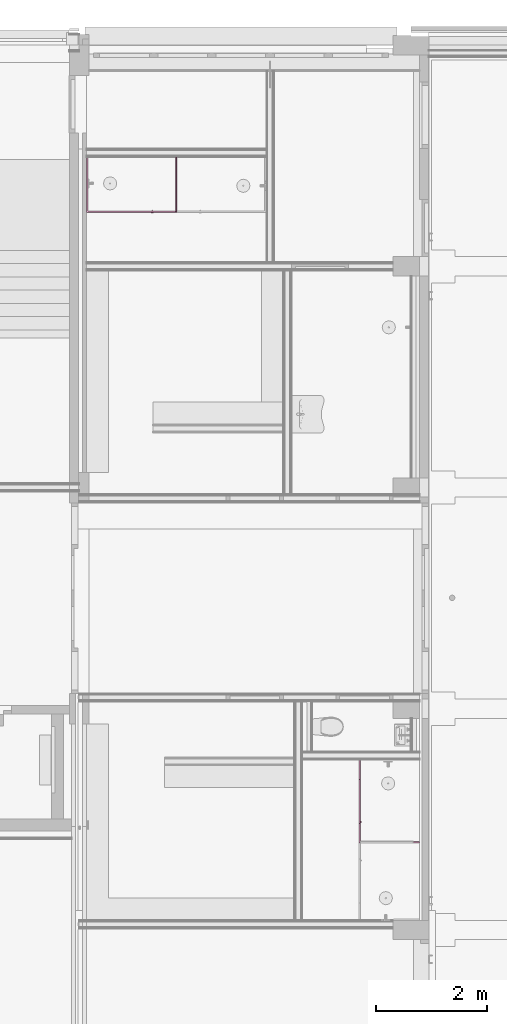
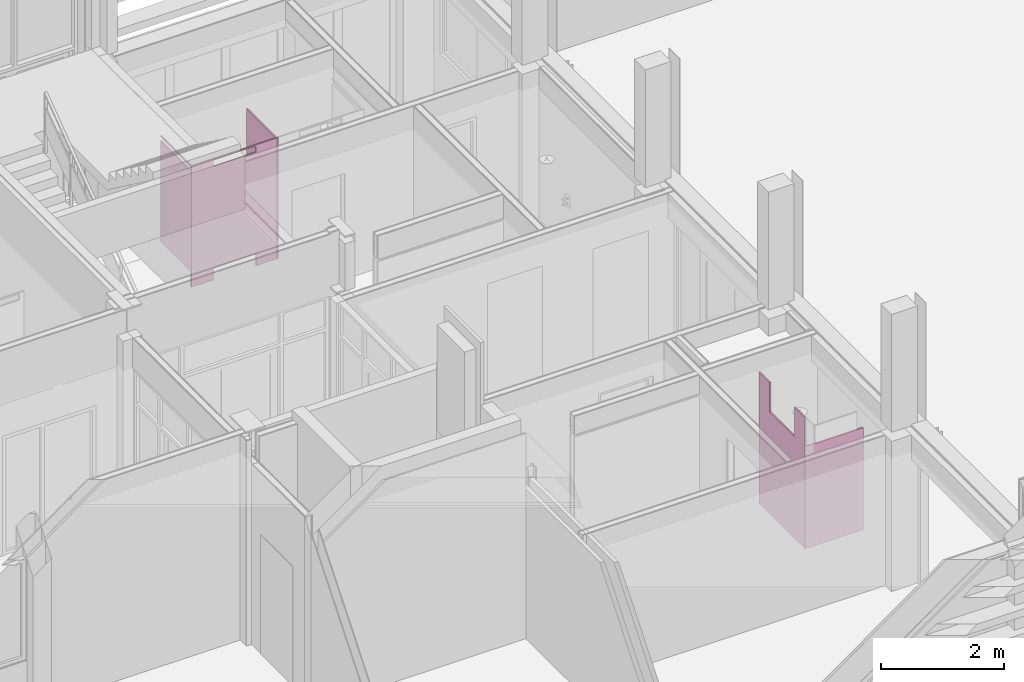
# One storey, part 104 of 109: 3 furnishings.
"""IFC2X3 building model written with IfcOpenShell, lengths in millimetres."""

from ifc_helpers import new_model, entity, si_unit, converted_unit, derived_unit, money_unit, direction, frame, origin_with_axes, place, context, subcontext, project, spatial, open_shell, faceted_brep, surface_model, type_object, element, save


model = new_model("IFC2X3")

# Units and contexts
model_context = context("Model", 3, precision=0.01, world=origin_with_axes(), true_north=direction((0.0, 1.0)))
body_context = subcontext(model_context, "Body", "Model", "MODEL_VIEW")
ifc_project = project(units=[si_unit("LENGTHUNIT", "METRE", prefix="MILLI"), si_unit("AREAUNIT", "SQUARE_METRE"), si_unit("VOLUMEUNIT", "CUBIC_METRE"), converted_unit("PLANEANGLEUNIT", "DEGREE", entity("IfcPlaneAngleMeasure", 0.0174532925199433), si_unit("PLANEANGLEUNIT", "RADIAN"), dimensions=[0, 0, 0, 0, 0, 0, 0]), money_unit("EUR"), converted_unit("TIMEUNIT", "Year", entity("IfcTimeMeasure", 31557600.0), si_unit("TIMEUNIT", "SECOND"), dimensions=[0, 0, 1, 0, 0, 0, 0]), si_unit("MASSUNIT", "GRAM", prefix="KILO"), si_unit("THERMODYNAMICTEMPERATUREUNIT", "DEGREE_CELSIUS"), si_unit("LUMINOUSINTENSITYUNIT", "LUMEN"), si_unit("ENERGYUNIT", "JOULE", prefix="MEGA"), derived_unit("THERMALCONDUCTANCEUNIT", [(si_unit("POWERUNIT", "WATT"), 1), (si_unit("LENGTHUNIT", "METRE"), -1), (si_unit("THERMODYNAMICTEMPERATUREUNIT", "KELVIN"), -1)]), derived_unit("SPECIFICHEATCAPACITYUNIT", [(si_unit("ENERGYUNIT", "JOULE"), 1), (si_unit("MASSUNIT", "GRAM", prefix="KILO"), -1), (si_unit("THERMODYNAMICTEMPERATUREUNIT", "KELVIN"), -1)]), derived_unit("MASSDENSITYUNIT", [(si_unit("MASSUNIT", "GRAM", prefix="KILO"), 1), (si_unit("VOLUMEUNIT", "CUBIC_METRE"), -1)])], contexts=[model_context])

# Site, building, storey
site_placement = place(None, origin_with_axes())
site = spatial("IfcSite", under=ifc_project, at=site_placement, Name="<site naam>", CompositionType="ELEMENT")
building_placement = place(site_placement, origin_with_axes())
building = spatial("IfcBuilding", under=site, at=building_placement, Name="<Naam gebouw>", CompositionType="ELEMENT")
storey_placement = place(building_placement, origin_with_axes())
storey = spatial("IfcBuildingStorey", under=building, at=storey_placement, Name="00 Begane grond", CompositionType="ELEMENT", Elevation=0.0)

# Furnishings
furnishing_element_type_1 = type_object("IfcFurnishingElementType", Name="Sanitaire wanden 27")
furnishing_1_placement = place(storey_placement, frame((52135.00000000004, 16975.01572012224, 0.0), z_axis=(0.0, 0.0, 1.0), x_axis=(1.0, 0.0, 0.0)))
element("IfcFurnishingElement", 1, at=furnishing_1_placement, inside=storey, type_object=furnishing_element_type_1, Name="72_Sanitaire wanden Kupan_Lege", context=body_context, shape_type="SurfaceModel", body=[
    faceted_brep([(0.0, 0.0, 0.0), (416.6497116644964, 0.0, 0.0), (416.6497116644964, 0.0, 2375.0), (0.0, 0.0, 2375.0), (0.0, 25.0, 0.0), (416.6497116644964, 25.0, 0.0), (416.6497116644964, 25.0, 2375.0), (0.0, 25.0, 2375.0)], [[[0, 1, 2, 3]], [[0, 4, 5, 1]], [[1, 5, 6, 2]], [[3, 2, 6, 7]], [[4, 0, 3, 7]], [[5, 4, 7, 6]]]),
    faceted_brep([(1216.649711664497, 0.0, 0.0), (1633.299423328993, 0.0, 0.0), (1633.299423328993, 0.0, 2375.0), (1216.649711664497, 0.0, 2375.0), (1216.649711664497, 25.0, 0.0), (1633.299423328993, 25.0, 0.0), (1633.299423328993, 25.0, 2375.0), (1216.649711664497, 25.0, 2375.0)], [[[0, 1, 2, 3]], [[0, 4, 5, 1]], [[1, 5, 6, 2]], [[3, 2, 6, 7]], [[4, 0, 3, 7]], [[5, 4, 7, 6]]]),
    surface_model("IfcShellBasedSurfaceModel", [(0.0, 0.0, 0.0), (0.0, 25.0, 0.0), (416.6497116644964, 25.0, 0.0), (416.6497116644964, 0.0, 0.0)], [open_shell([[[0, 1, 2, 3]]])]),
    surface_model("IfcShellBasedSurfaceModel", [(1216.649711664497, 0.0, 0.0), (1216.649711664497, 25.0, 0.0), (1633.299423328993, 25.0, 0.0), (1633.299423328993, 0.0, 0.0)], [open_shell([[[0, 1, 2, 3]]])]),
    faceted_brep([(1633.299423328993, 0.0, 2375.0), (1633.299423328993, 25.0, 2375.0), (1633.299423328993, 25.0, 2400.0), (1633.299423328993, 0.0, 2400.0), (0.0, 0.0, 2375.0), (0.0, 25.0, 2375.0), (0.0, 25.0, 2400.0), (0.0, 0.0, 2400.0)], [[[0, 1, 2, 3]], [[0, 4, 5, 1]], [[1, 5, 6, 2]], [[3, 2, 6, 7]], [[4, 0, 3, 7]], [[5, 4, 7, 6]]]),
    faceted_brep([(416.6497116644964, 0.0, 250.0), (1216.649711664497, 0.0, 250.0), (1216.649711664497, 0.0, 2250.0), (416.6497116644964, 0.0, 2250.0), (416.6497116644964, 25.0, 250.0), (1216.649711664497, 25.0, 250.0), (1216.649711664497, 25.0, 2250.0), (416.6497116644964, 25.0, 2250.0)], [[[0, 1, 2, 3]], [[0, 4, 5, 1]], [[1, 5, 6, 2]], [[3, 2, 6, 7]], [[4, 0, 3, 7]], [[5, 4, 7, 6]]]),
    faceted_brep([(1184.649711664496, 30.0, 1048.5), (1184.649711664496, 30.0, 1051.5), (1184.649711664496, 31.0, 1051.5), (1184.649711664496, 31.0, 1048.5), (1188.649711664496, 30.0, 1048.5), (1188.649711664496, 30.0, 1051.5), (1188.649711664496, 31.0, 1051.5), (1203.649711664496, 31.0, 1051.5), (1201.316060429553, 34.44581109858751, 1051.5), (1198.295883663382, 37.30903908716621, 1051.5), (1194.730554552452, 39.4556574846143, 1051.5), (1190.786964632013, 40.78518399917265, 1051.5), (1186.649711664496, 41.23538406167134, 1051.5), (1182.512458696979, 40.78518399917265, 1051.5), (1178.56886877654, 39.4556574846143, 1051.5), (1175.003539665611, 37.3090390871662, 1051.5), (1171.98336289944, 34.4458110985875, 1051.5), (1169.649711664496, 31.0, 1051.5), (1169.649711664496, 31.0, 1048.5), (1171.98336289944, 34.4458110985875, 1048.5), (1175.003539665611, 37.3090390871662, 1048.5), (1178.56886877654, 39.4556574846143, 1048.5), (1182.512458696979, 40.78518399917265, 1048.5), (1186.649711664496, 41.23538406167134, 1048.5), (1190.786964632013, 40.78518399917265, 1048.5), (1194.730554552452, 39.4556574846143, 1048.5), (1198.295883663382, 37.30903908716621, 1048.5), (1201.316060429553, 34.44581109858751, 1048.5), (1203.649711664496, 31.0, 1048.5), (1188.649711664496, 31.0, 1048.5)], [[[0, 1, 2, 3]], [[4, 5, 1, 0]], [[1, 5, 6, 7, 8, 9, 10, 11, 12, 13, 14, 15, 16, 17, 2]], [[3, 2, 17, 18]], [[0, 3, 18, 19, 20, 21, 22, 23, 24, 25, 26, 27, 28, 29, 4]], [[29, 6, 5, 4]], [[28, 7, 6, 29]], [[27, 8, 7, 28]], [[26, 9, 8, 27]], [[25, 10, 9, 26]], [[24, 11, 10, 25]], [[23, 12, 11, 24]], [[22, 13, 12, 23]], [[21, 14, 13, 22]], [[20, 15, 14, 21]], [[19, 16, 15, 20]], [[18, 17, 16, 19]]]),
    surface_model("IfcShellBasedSurfaceModel", [(1180.83536922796, 30.0, 1065.97477455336), (1178.783248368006, 28.0, 1071.612930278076), (1186.649711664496, 28.0, 1073.0), (1186.649711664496, 30.0, 1067.0), (1175.722322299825, 30.0, 1063.022755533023), (1171.865596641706, 28.0, 1067.619022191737), (1178.783248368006, 25.0, 1071.612930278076), (1186.649711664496, 25.0, 1073.0), (1194.516174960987, 28.0, 1071.612930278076), (1192.464054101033, 30.0, 1065.97477455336), (1197.577101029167, 30.0, 1063.022755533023), (1201.372143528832, 30.0, 1058.5), (1203.391443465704, 30.0, 1052.952019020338), (1203.391443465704, 30.0, 1047.047980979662), (1201.372143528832, 30.0, 1041.5), (1197.577101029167, 30.0, 1036.977244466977), (1192.464054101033, 30.0, 1034.02522544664), (1186.649711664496, 30.0, 1033.0), (1180.83536922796, 30.0, 1034.02522544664), (1175.722322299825, 30.0, 1036.977244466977), (1171.927279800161, 30.0, 1041.5), (1169.907979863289, 30.0, 1047.047980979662), (1169.907979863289, 30.0, 1052.952019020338), (1171.927279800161, 30.0, 1058.5), (1166.731127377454, 28.0, 1061.5), (1171.865596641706, 25.0, 1067.619022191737), (1194.516174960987, 25.0, 1071.612930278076), (1201.433826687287, 28.0, 1067.619022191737), (1206.568295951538, 28.0, 1061.5), (1209.300289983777, 28.0, 1053.993908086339), (1209.300289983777, 28.0, 1046.006091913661), (1206.568295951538, 28.0, 1038.5), (1201.433826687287, 28.0, 1032.380977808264), (1194.516174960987, 28.0, 1028.387069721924), (1186.649711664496, 28.0, 1027.0), (1178.783248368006, 28.0, 1028.387069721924), (1171.865596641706, 28.0, 1032.380977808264), (1166.731127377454, 28.0, 1038.5), (1163.999133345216, 28.0, 1046.006091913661), (1163.999133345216, 28.0, 1053.993908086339), (1166.731127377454, 25.0, 1061.5), (1201.433826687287, 25.0, 1067.619022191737), (1206.568295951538, 25.0, 1061.5), (1209.300289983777, 25.0, 1053.993908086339), (1209.300289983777, 25.0, 1046.006091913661), (1206.568295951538, 25.0, 1038.5), (1201.433826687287, 25.0, 1032.380977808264), (1194.516174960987, 25.0, 1028.387069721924), (1186.649711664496, 25.0, 1027.0), (1178.783248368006, 25.0, 1028.387069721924), (1171.865596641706, 25.0, 1032.380977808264), (1166.731127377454, 25.0, 1038.5), (1163.999133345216, 25.0, 1046.006091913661), (1163.999133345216, 25.0, 1053.993908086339)], [open_shell([[[0, 1, 2, 3]], [[4, 5, 1, 0]], [[1, 6, 7, 2]], [[3, 2, 8, 9]], [[3, 9, 10, 11, 12, 13, 14, 15, 16, 17, 18, 19, 20, 21, 22, 23, 4, 0]], [[23, 24, 5, 4]], [[5, 25, 6, 1]], [[2, 7, 26, 8]], [[9, 8, 27, 10]], [[10, 27, 28, 11]], [[11, 28, 29, 12]], [[12, 29, 30, 13]], [[13, 30, 31, 14]], [[14, 31, 32, 15]], [[15, 32, 33, 16]], [[16, 33, 34, 17]], [[17, 34, 35, 18]], [[18, 35, 36, 19]], [[19, 36, 37, 20]], [[20, 37, 38, 21]], [[21, 38, 39, 22]], [[22, 39, 24, 23]], [[24, 40, 25, 5]], [[8, 26, 41, 27]], [[27, 41, 42, 28]], [[28, 42, 43, 29]], [[29, 43, 44, 30]], [[30, 44, 45, 31]], [[31, 45, 46, 32]], [[32, 46, 47, 33]], [[33, 47, 48, 34]], [[34, 48, 49, 35]], [[35, 49, 50, 36]], [[36, 50, 51, 37]], [[37, 51, 52, 38]], [[38, 52, 53, 39]], [[39, 53, 40, 24]]])]),
    faceted_brep([(1163.649711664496, -1.200000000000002, 1050.0), (1163.649711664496, -4.200000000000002, 1050.0), (1165.03678138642, -4.200000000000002, 1057.866463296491), (1165.03678138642, -1.200000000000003, 1057.866463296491), (1165.03678138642, -1.200000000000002, 1042.13353670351), (1165.03678138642, -4.200000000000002, 1042.13353670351), (1169.03068947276, -4.2, 1035.215884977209), (1175.149711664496, -4.2, 1030.081415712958), (1182.655803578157, -4.199999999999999, 1027.349421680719), (1190.643619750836, -4.199999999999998, 1027.349421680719), (1198.149711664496, -4.199999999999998, 1030.081415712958), (1204.268733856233, -4.199999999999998, 1035.21588497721), (1208.262641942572, -4.199999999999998, 1042.13353670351), (1209.649711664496, -4.199999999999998, 1050.0), (1208.262641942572, -4.199999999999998, 1057.866463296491), (1204.268733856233, -4.199999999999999, 1064.78411502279), (1198.149711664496, -4.2, 1069.918584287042), (1190.643619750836, -4.2, 1072.650578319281), (1182.655803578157, -4.200000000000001, 1072.650578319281), (1175.149711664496, -4.200000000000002, 1069.918584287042), (1169.03068947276, -4.200000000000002, 1064.78411502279), (1169.03068947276, -1.200000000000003, 1064.78411502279), (1175.149711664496, -1.200000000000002, 1069.918584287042), (1182.655803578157, -1.200000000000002, 1072.650578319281), (1190.643619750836, -1.200000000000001, 1072.650578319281), (1198.149711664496, -1.2, 1069.918584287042), (1204.268733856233, -1.199999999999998, 1064.78411502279), (1208.262641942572, -1.199999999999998, 1057.866463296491), (1209.649711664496, -1.199999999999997, 1050.0), (1208.262641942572, -1.199999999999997, 1042.13353670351), (1204.268733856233, -1.199999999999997, 1035.21588497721), (1198.149711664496, -1.199999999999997, 1030.081415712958), (1190.643619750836, -1.199999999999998, 1027.349421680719), (1182.655803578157, -1.199999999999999, 1027.349421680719), (1175.149711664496, -1.2, 1030.081415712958), (1169.03068947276, -1.200000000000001, 1035.215884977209)], [[[0, 1, 2, 3]], [[4, 5, 1, 0]], [[1, 5, 6, 7, 8, 9, 10, 11, 12, 13, 14, 15, 16, 17, 18, 19, 20, 2]], [[3, 2, 20, 21]], [[0, 3, 21, 22, 23, 24, 25, 26, 27, 28, 29, 30, 31, 32, 33, 34, 35, 4]], [[35, 6, 5, 4]], [[34, 7, 6, 35]], [[33, 8, 7, 34]], [[32, 9, 8, 33]], [[31, 10, 9, 32]], [[30, 11, 10, 31]], [[29, 12, 11, 30]], [[28, 13, 12, 29]], [[27, 14, 13, 28]], [[26, 15, 14, 27]], [[25, 16, 15, 26]], [[24, 17, 16, 25]], [[23, 18, 17, 24]], [[22, 19, 18, 23]], [[21, 20, 19, 22]]]),
    faceted_brep([(1195.149711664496, -6.199999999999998, 1035.277568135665), (1199.672467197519, -6.199999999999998, 1039.072610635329), (1202.624486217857, -6.199999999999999, 1044.185657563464), (1203.649711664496, -6.199999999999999, 1050.0), (1202.624486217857, -6.199999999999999, 1055.814342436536), (1199.672467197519, -6.2, 1060.927389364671), (1195.149711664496, -6.2, 1064.722431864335), (1189.601730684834, -6.200000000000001, 1066.741731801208), (1183.697692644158, -6.200000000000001, 1066.741731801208), (1178.149711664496, -6.200000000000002, 1064.722431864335), (1173.626956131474, -6.200000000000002, 1060.927389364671), (1170.674937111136, -6.200000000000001, 1055.814342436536), (1169.649711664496, -6.200000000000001, 1050.0), (1170.674937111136, -6.200000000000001, 1044.185657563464), (1173.626956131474, -6.2, 1039.072610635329), (1178.149711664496, -6.2, 1035.277568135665), (1183.697692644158, -6.199999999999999, 1033.258268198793), (1189.601730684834, -6.199999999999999, 1033.258268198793), (1182.649711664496, -6.200000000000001, 1057.5), (1182.649711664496, -6.200000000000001, 1062.5), (1190.649711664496, -6.200000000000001, 1062.5), (1190.649711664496, -6.2, 1057.5), (1198.149711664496, -4.199999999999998, 1030.081415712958), (1204.268733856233, -4.199999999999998, 1035.21588497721), (1208.262641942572, -4.199999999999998, 1042.13353670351), (1209.649711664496, -4.199999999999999, 1050.0), (1208.262641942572, -4.199999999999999, 1057.866463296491), (1204.268733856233, -4.2, 1064.784115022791), (1198.149711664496, -4.2, 1069.918584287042), (1190.643619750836, -4.2, 1072.650578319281), (1182.655803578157, -4.200000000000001, 1072.650578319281), (1175.149711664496, -4.200000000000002, 1069.918584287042), (1169.03068947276, -4.200000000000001, 1064.78411502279), (1165.03678138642, -4.200000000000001, 1057.866463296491), (1163.649711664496, -4.2, 1050.0), (1165.03678138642, -4.2, 1042.13353670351), (1169.03068947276, -4.2, 1035.21588497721), (1175.149711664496, -4.199999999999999, 1030.081415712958), (1182.655803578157, -4.199999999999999, 1027.349421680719), (1190.643619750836, -4.199999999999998, 1027.349421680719), (1182.649711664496, -4.2, 1057.5), (1182.649711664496, -4.200000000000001, 1062.5), (1190.649711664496, -4.2, 1062.5), (1190.649711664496, -4.2, 1057.5)], [[[0, 1, 2, 3, 4, 5, 6, 7, 8, 9, 10, 11, 12, 13, 14, 15, 16, 17], [18, 19, 20, 21]], [[22, 23, 1, 0]], [[23, 24, 2, 1]], [[24, 25, 3, 2]], [[25, 26, 4, 3]], [[26, 27, 5, 4]], [[27, 28, 6, 5]], [[28, 29, 7, 6]], [[29, 30, 8, 7]], [[30, 31, 9, 8]], [[31, 32, 10, 9]], [[32, 33, 11, 10]], [[33, 34, 12, 11]], [[34, 35, 13, 12]], [[35, 36, 14, 13]], [[36, 37, 15, 14]], [[37, 38, 16, 15]], [[38, 39, 17, 16]], [[39, 22, 0, 17]], [[40, 41, 19, 18]], [[41, 42, 20, 19]], [[42, 43, 21, 20]], [[43, 40, 18, 21]], [[28, 27, 26, 25, 24, 23, 22, 39, 38, 37, 36, 35, 34, 33, 32, 31, 30, 29], [40, 43, 42, 41]]]),
    surface_model("IfcShellBasedSurfaceModel", [(1182.649711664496, -4.210000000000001, 1062.5), (1190.649711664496, -4.21, 1062.5), (1190.649711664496, -4.21, 1057.5), (1182.649711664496, -4.210000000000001, 1057.5)], [open_shell([[[0, 1, 2, 3]]])]),
    faceted_brep([(25.0, 25.0, 300.0), (25.00000000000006, 999.984279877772, 300.0), (25.00000000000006, 999.984279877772, 2300.0), (25.0, 25.0, 2300.0), (0.0, 25.0, 300.0), (0.0, 999.984279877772, 300.0), (0.0, 999.984279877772, 2300.0), (0.0, 25.0, 2300.0)], [[[0, 1, 2, 3]], [[0, 4, 5, 1]], [[1, 5, 6, 2]], [[3, 2, 6, 7]], [[4, 0, 3, 7]], [[5, 4, 7, 6]]]),
    faceted_brep([(25.0, 25.0, 2375.0), (25.00000000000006, 999.984279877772, 2375.0), (25.00000000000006, 999.984279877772, 2400.0), (25.0, 25.0, 2400.0), (0.0, 25.0, 2375.0), (0.0, 999.984279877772, 2375.0), (0.0, 999.984279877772, 2400.0), (0.0, 25.0, 2400.0)], [[[0, 1, 2, 3]], [[0, 4, 5, 1]], [[1, 5, 6, 2]], [[3, 2, 6, 7]], [[4, 0, 3, 7]], [[5, 4, 7, 6]]]),
])
furnishing_2_placement = place(storey_placement, frame((57062.79866662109, 7075.000000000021, 0.0), z_axis=(0.0, 0.0, 1.0), x_axis=(0.0, -1.0, 0.0)))
element("IfcFurnishingElement", 2, at=furnishing_2_placement, inside=storey, type_object=furnishing_element_type_1, Name="72_Sanitaire wanden Kupan_Lege", context=body_context, shape_type="SurfaceModel", body=[
    faceted_brep([(0.0, 0.0, 0.0), (349.9999999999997, 0.0, 0.0), (349.9999999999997, 0.0, 2600.0), (0.0, 0.0, 2600.0), (0.0, 25.0, 0.0), (349.9999999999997, 25.0, 0.0), (349.9999999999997, 25.0, 2600.0), (0.0, 25.0, 2600.0)], [[[0, 1, 2, 3]], [[0, 4, 5, 1]], [[1, 5, 6, 2]], [[3, 2, 6, 7]], [[4, 0, 3, 7]], [[5, 4, 7, 6]]]),
    faceted_brep([(1150.0, 0.0, 0.0), (1499.999999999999, 0.0, 0.0), (1499.999999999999, 0.0, 2600.0), (1150.0, 0.0, 2600.0), (1150.0, 25.0, 0.0), (1499.999999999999, 25.0, 0.0), (1499.999999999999, 25.0, 2600.0), (1150.0, 25.0, 2600.0)], [[[0, 1, 2, 3]], [[0, 4, 5, 1]], [[1, 5, 6, 2]], [[3, 2, 6, 7]], [[4, 0, 3, 7]], [[5, 4, 7, 6]]]),
    surface_model("IfcShellBasedSurfaceModel", [(0.0, 0.0, 0.0), (0.0, 25.0, 0.0), (349.9999999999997, 25.0, 0.0), (349.9999999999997, 0.0, 0.0)], [open_shell([[[0, 1, 2, 3]]])]),
    surface_model("IfcShellBasedSurfaceModel", [(1150.0, 0.0, 0.0), (1150.0, 25.0, 0.0), (1499.999999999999, 25.0, 0.0), (1499.999999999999, 0.0, 0.0)], [open_shell([[[0, 1, 2, 3]]])]),
    faceted_brep([(349.9999999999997, 0.0, 0.0), (1150.0, 0.0, 0.0), (1150.0, 0.0, 2025.0), (349.9999999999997, 0.0, 2025.0), (349.9999999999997, 25.0, 0.0), (1150.0, 25.0, 0.0), (1150.0, 25.0, 2025.0), (349.9999999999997, 25.0, 2025.0)], [[[0, 1, 2, 3]], [[0, 4, 5, 1]], [[1, 5, 6, 2]], [[3, 2, 6, 7]], [[4, 0, 3, 7]], [[5, 4, 7, 6]]]),
    faceted_brep([(1118.0, 30.0, 1048.5), (1118.0, 30.0, 1051.5), (1118.0, 31.0, 1051.5), (1118.0, 31.0, 1048.5), (1122.0, 30.0, 1048.5), (1122.0, 30.0, 1051.5), (1122.0, 31.0, 1051.5), (1137.0, 31.0, 1051.5), (1134.666348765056, 34.44581109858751, 1051.5), (1131.646171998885, 37.30903908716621, 1051.5), (1128.080842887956, 39.4556574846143, 1051.5), (1124.137252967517, 40.78518399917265, 1051.5), (1120.0, 41.23538406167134, 1051.5), (1115.862747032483, 40.78518399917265, 1051.5), (1111.919157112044, 39.4556574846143, 1051.5), (1108.353828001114, 37.3090390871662, 1051.5), (1105.333651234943, 34.4458110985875, 1051.5), (1103.0, 31.0, 1051.5), (1103.0, 31.0, 1048.5), (1105.333651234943, 34.4458110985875, 1048.5), (1108.353828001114, 37.3090390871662, 1048.5), (1111.919157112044, 39.4556574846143, 1048.5), (1115.862747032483, 40.78518399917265, 1048.5), (1120.0, 41.23538406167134, 1048.5), (1124.137252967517, 40.78518399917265, 1048.5), (1128.080842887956, 39.4556574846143, 1048.5), (1131.646171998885, 37.30903908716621, 1048.5), (1134.666348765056, 34.44581109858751, 1048.5), (1137.0, 31.0, 1048.5), (1122.0, 31.0, 1048.5)], [[[0, 1, 2, 3]], [[4, 5, 1, 0]], [[1, 5, 6, 7, 8, 9, 10, 11, 12, 13, 14, 15, 16, 17, 2]], [[3, 2, 17, 18]], [[0, 3, 18, 19, 20, 21, 22, 23, 24, 25, 26, 27, 28, 29, 4]], [[29, 6, 5, 4]], [[28, 7, 6, 29]], [[27, 8, 7, 28]], [[26, 9, 8, 27]], [[25, 10, 9, 26]], [[24, 11, 10, 25]], [[23, 12, 11, 24]], [[22, 13, 12, 23]], [[21, 14, 13, 22]], [[20, 15, 14, 21]], [[19, 16, 15, 20]], [[18, 17, 16, 19]]]),
    surface_model("IfcShellBasedSurfaceModel", [(1114.185657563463, 30.0, 1065.97477455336), (1112.133536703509, 28.0, 1071.612930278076), (1120.0, 28.0, 1073.0), (1120.0, 30.0, 1067.0), (1109.072610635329, 30.0, 1063.022755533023), (1105.215884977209, 28.0, 1067.619022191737), (1112.133536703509, 25.0, 1071.612930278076), (1120.0, 25.0, 1073.0), (1127.86646329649, 28.0, 1071.612930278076), (1125.814342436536, 30.0, 1065.97477455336), (1130.927389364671, 30.0, 1063.022755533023), (1134.722431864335, 30.0, 1058.5), (1136.741731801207, 30.0, 1052.952019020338), (1136.741731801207, 30.0, 1047.047980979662), (1134.722431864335, 30.0, 1041.5), (1130.927389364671, 30.0, 1036.977244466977), (1125.814342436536, 30.0, 1034.02522544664), (1120.0, 30.0, 1033.0), (1114.185657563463, 30.0, 1034.02522544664), (1109.072610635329, 30.0, 1036.977244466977), (1105.277568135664, 30.0, 1041.5), (1103.258268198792, 30.0, 1047.047980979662), (1103.258268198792, 30.0, 1052.952019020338), (1105.277568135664, 30.0, 1058.5), (1100.081415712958, 28.0, 1061.5), (1105.215884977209, 25.0, 1067.619022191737), (1127.86646329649, 25.0, 1071.612930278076), (1134.78411502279, 28.0, 1067.619022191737), (1139.918584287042, 28.0, 1061.5), (1142.65057831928, 28.0, 1053.993908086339), (1142.65057831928, 28.0, 1046.006091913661), (1139.918584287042, 28.0, 1038.5), (1134.78411502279, 28.0, 1032.380977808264), (1127.86646329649, 28.0, 1028.387069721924), (1120.0, 28.0, 1027.0), (1112.133536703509, 28.0, 1028.387069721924), (1105.215884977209, 28.0, 1032.380977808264), (1100.081415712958, 28.0, 1038.5), (1097.349421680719, 28.0, 1046.006091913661), (1097.349421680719, 28.0, 1053.993908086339), (1100.081415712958, 25.0, 1061.5), (1134.78411502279, 25.0, 1067.619022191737), (1139.918584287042, 25.0, 1061.5), (1142.65057831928, 25.0, 1053.993908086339), (1142.65057831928, 25.0, 1046.006091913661), (1139.918584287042, 25.0, 1038.5), (1134.78411502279, 25.0, 1032.380977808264), (1127.86646329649, 25.0, 1028.387069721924), (1120.0, 25.0, 1027.0), (1112.133536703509, 25.0, 1028.387069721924), (1105.215884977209, 25.0, 1032.380977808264), (1100.081415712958, 25.0, 1038.5), (1097.349421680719, 25.0, 1046.006091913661), (1097.349421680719, 25.0, 1053.993908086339)], [open_shell([[[0, 1, 2, 3]], [[4, 5, 1, 0]], [[1, 6, 7, 2]], [[3, 2, 8, 9]], [[3, 9, 10, 11, 12, 13, 14, 15, 16, 17, 18, 19, 20, 21, 22, 23, 4, 0]], [[23, 24, 5, 4]], [[5, 25, 6, 1]], [[2, 7, 26, 8]], [[9, 8, 27, 10]], [[10, 27, 28, 11]], [[11, 28, 29, 12]], [[12, 29, 30, 13]], [[13, 30, 31, 14]], [[14, 31, 32, 15]], [[15, 32, 33, 16]], [[16, 33, 34, 17]], [[17, 34, 35, 18]], [[18, 35, 36, 19]], [[19, 36, 37, 20]], [[20, 37, 38, 21]], [[21, 38, 39, 22]], [[22, 39, 24, 23]], [[24, 40, 25, 5]], [[8, 26, 41, 27]], [[27, 41, 42, 28]], [[28, 42, 43, 29]], [[29, 43, 44, 30]], [[30, 44, 45, 31]], [[31, 45, 46, 32]], [[32, 46, 47, 33]], [[33, 47, 48, 34]], [[34, 48, 49, 35]], [[35, 49, 50, 36]], [[36, 50, 51, 37]], [[37, 51, 52, 38]], [[38, 52, 53, 39]], [[39, 53, 40, 24]]])]),
    faceted_brep([(1097.0, -1.200000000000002, 1050.0), (1097.0, -4.200000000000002, 1050.0), (1098.387069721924, -4.200000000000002, 1057.866463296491), (1098.387069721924, -1.200000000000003, 1057.866463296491), (1098.387069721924, -1.200000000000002, 1042.13353670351), (1098.387069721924, -4.200000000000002, 1042.13353670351), (1102.380977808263, -4.2, 1035.215884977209), (1108.5, -4.2, 1030.081415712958), (1116.00609191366, -4.199999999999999, 1027.349421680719), (1123.993908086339, -4.199999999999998, 1027.349421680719), (1131.5, -4.199999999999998, 1030.081415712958), (1137.619022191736, -4.199999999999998, 1035.21588497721), (1141.612930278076, -4.199999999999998, 1042.13353670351), (1143.0, -4.199999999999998, 1050.0), (1141.612930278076, -4.199999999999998, 1057.866463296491), (1137.619022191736, -4.199999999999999, 1064.78411502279), (1131.5, -4.2, 1069.918584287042), (1123.993908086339, -4.2, 1072.650578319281), (1116.00609191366, -4.200000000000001, 1072.650578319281), (1108.5, -4.200000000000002, 1069.918584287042), (1102.380977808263, -4.200000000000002, 1064.78411502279), (1102.380977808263, -1.200000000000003, 1064.78411502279), (1108.5, -1.200000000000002, 1069.918584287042), (1116.00609191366, -1.200000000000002, 1072.650578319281), (1123.993908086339, -1.200000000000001, 1072.650578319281), (1131.5, -1.2, 1069.918584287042), (1137.619022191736, -1.199999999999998, 1064.78411502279), (1141.612930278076, -1.199999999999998, 1057.866463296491), (1143.0, -1.199999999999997, 1050.0), (1141.612930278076, -1.199999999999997, 1042.13353670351), (1137.619022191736, -1.199999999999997, 1035.21588497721), (1131.5, -1.199999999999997, 1030.081415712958), (1123.993908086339, -1.199999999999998, 1027.349421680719), (1116.00609191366, -1.199999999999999, 1027.349421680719), (1108.5, -1.2, 1030.081415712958), (1102.380977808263, -1.200000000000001, 1035.215884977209)], [[[0, 1, 2, 3]], [[4, 5, 1, 0]], [[1, 5, 6, 7, 8, 9, 10, 11, 12, 13, 14, 15, 16, 17, 18, 19, 20, 2]], [[3, 2, 20, 21]], [[0, 3, 21, 22, 23, 24, 25, 26, 27, 28, 29, 30, 31, 32, 33, 34, 35, 4]], [[35, 6, 5, 4]], [[34, 7, 6, 35]], [[33, 8, 7, 34]], [[32, 9, 8, 33]], [[31, 10, 9, 32]], [[30, 11, 10, 31]], [[29, 12, 11, 30]], [[28, 13, 12, 29]], [[27, 14, 13, 28]], [[26, 15, 14, 27]], [[25, 16, 15, 26]], [[24, 17, 16, 25]], [[23, 18, 17, 24]], [[22, 19, 18, 23]], [[21, 20, 19, 22]]]),
    faceted_brep([(1128.5, -6.199999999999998, 1035.277568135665), (1133.022755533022, -6.199999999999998, 1039.072610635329), (1135.97477455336, -6.199999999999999, 1044.185657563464), (1137.0, -6.199999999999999, 1050.0), (1135.97477455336, -6.199999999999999, 1055.814342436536), (1133.022755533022, -6.2, 1060.927389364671), (1128.5, -6.2, 1064.722431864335), (1122.952019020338, -6.200000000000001, 1066.741731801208), (1117.047980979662, -6.200000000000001, 1066.741731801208), (1111.5, -6.200000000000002, 1064.722431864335), (1106.977244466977, -6.200000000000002, 1060.927389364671), (1104.025225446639, -6.200000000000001, 1055.814342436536), (1103.0, -6.200000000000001, 1050.0), (1104.025225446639, -6.200000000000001, 1044.185657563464), (1106.977244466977, -6.2, 1039.072610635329), (1111.5, -6.2, 1035.277568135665), (1117.047980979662, -6.199999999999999, 1033.258268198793), (1122.952019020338, -6.199999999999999, 1033.258268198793), (1116.0, -6.200000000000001, 1057.5), (1116.0, -6.200000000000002, 1062.5), (1124.0, -6.200000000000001, 1062.5), (1124.0, -6.2, 1057.5), (1131.5, -4.199999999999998, 1030.081415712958), (1137.619022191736, -4.199999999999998, 1035.21588497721), (1141.612930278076, -4.199999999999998, 1042.13353670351), (1143.0, -4.199999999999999, 1050.0), (1141.612930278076, -4.199999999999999, 1057.866463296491), (1137.619022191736, -4.2, 1064.784115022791), (1131.5, -4.2, 1069.918584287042), (1123.993908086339, -4.2, 1072.650578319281), (1116.00609191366, -4.200000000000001, 1072.650578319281), (1108.5, -4.200000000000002, 1069.918584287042), (1102.380977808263, -4.200000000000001, 1064.78411502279), (1098.387069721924, -4.200000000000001, 1057.866463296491), (1097.0, -4.2, 1050.0), (1098.387069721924, -4.2, 1042.13353670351), (1102.380977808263, -4.2, 1035.21588497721), (1108.5, -4.199999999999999, 1030.081415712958), (1116.00609191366, -4.199999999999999, 1027.349421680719), (1123.993908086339, -4.199999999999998, 1027.349421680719), (1116.0, -4.200000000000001, 1057.5), (1116.0, -4.200000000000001, 1062.5), (1124.0, -4.2, 1062.5), (1124.0, -4.2, 1057.5)], [[[0, 1, 2, 3, 4, 5, 6, 7, 8, 9, 10, 11, 12, 13, 14, 15, 16, 17], [18, 19, 20, 21]], [[22, 23, 1, 0]], [[23, 24, 2, 1]], [[24, 25, 3, 2]], [[25, 26, 4, 3]], [[26, 27, 5, 4]], [[27, 28, 6, 5]], [[28, 29, 7, 6]], [[29, 30, 8, 7]], [[30, 31, 9, 8]], [[31, 32, 10, 9]], [[32, 33, 11, 10]], [[33, 34, 12, 11]], [[34, 35, 13, 12]], [[35, 36, 14, 13]], [[36, 37, 15, 14]], [[37, 38, 16, 15]], [[38, 39, 17, 16]], [[39, 22, 0, 17]], [[40, 41, 19, 18]], [[41, 42, 20, 19]], [[42, 43, 21, 20]], [[43, 40, 18, 21]], [[28, 27, 26, 25, 24, 23, 22, 39, 38, 37, 36, 35, 34, 33, 32, 31, 30, 29], [40, 43, 42, 41]]]),
    surface_model("IfcShellBasedSurfaceModel", [(1116.0, -4.210000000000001, 1062.5), (1124.0, -4.21, 1062.5), (1124.0, -4.21, 1057.5), (1116.0, -4.210000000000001, 1057.5)], [open_shell([[[0, 1, 2, 3]]])]),
    faceted_brep([(1499.999999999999, 25.0, 0.0), (1499.999999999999, 1094.984178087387, 0.0), (1499.999999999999, 1094.984178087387, 2025.0), (1499.999999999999, 25.0, 2025.0), (1474.999999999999, 25.0, 0.0), (1474.999999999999, 1094.984178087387, 0.0), (1474.999999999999, 1094.984178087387, 2025.0), (1474.999999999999, 25.0, 2025.0)], [[[0, 1, 2, 3]], [[0, 4, 5, 1]], [[1, 5, 6, 2]], [[3, 2, 6, 7]], [[4, 0, 3, 7]], [[5, 4, 7, 6]]]),
])
furnishing_element_type_2 = type_object("IfcFurnishingElementType", Name="Scheidingwanden 27")
furnishing_3_placement = place(storey_placement, frame((53743.29942332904, 16975.01576693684, 0.0), z_axis=(0.0, 0.0, 1.0), x_axis=(-5.914670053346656e-07, -0.9999999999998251, 0.0)))
element("IfcFurnishingElement", 3, at=furnishing_3_placement, inside=storey, type_object=furnishing_element_type_2, Name="72_Sanitaire wanden Kupan_Lege", context=body_context, shape_type="Brep", body=[
    faceted_brep([(0.0, 0.0, 0.0), (0.0, 0.0, 2375.0), (-999.9842478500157, 0.0, 2375.0), (-999.9842478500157, 0.0, 0.0), (0.0, 24.99999999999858, 0.0), (0.0, 24.99999999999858, 2375.0), (-999.9842478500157, 24.99999999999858, 2375.0), (-999.9842478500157, 24.99999999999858, 0.0)], [[[0, 1, 2, 3]], [[4, 5, 1, 0]], [[1, 5, 6, 2]], [[3, 2, 6, 7]], [[0, 3, 7, 4]], [[7, 6, 5, 4]]]),
])

save(model, "model.ifc")
